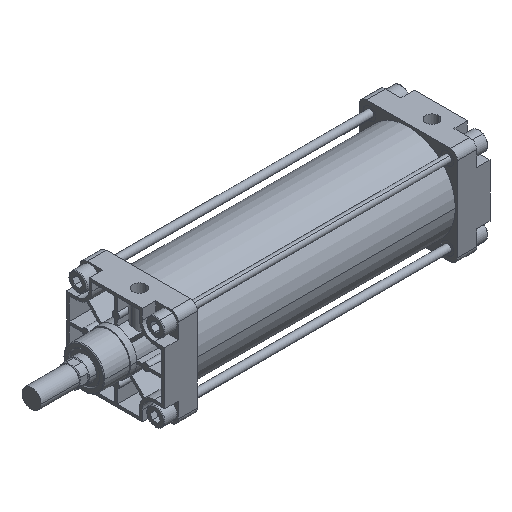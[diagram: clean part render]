
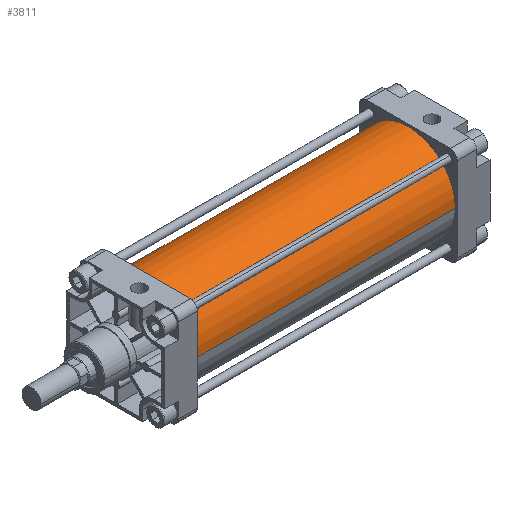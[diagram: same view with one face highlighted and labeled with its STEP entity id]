
A CAD part, isometric view. The second image highlights one B-rep face of the part: STEP entity #3811.
In plain terms, the highlighted cylindrical face has radius 66.5 mm (diameter 133 mm), a partial arc.
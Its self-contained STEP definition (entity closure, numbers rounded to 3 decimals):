
#3206=CARTESIAN_POINT('Vertex',(368.,-66.5,0.)) ;
#3208=CARTESIAN_POINT('Vertex',(368.,66.5,0.)) ;
#3211=CARTESIAN_POINT('Axis2P3D Location',(368.,0.,0.)) ;
#3781=CARTESIAN_POINT('Axis2P3D Location',(184.,0.,0.)) ;
#3786=CARTESIAN_POINT('Line Origine',(184.,66.5,0.)) ;
#3790=CARTESIAN_POINT('Vertex',(0.,66.5,0.)) ;
#3793=CARTESIAN_POINT('Axis2P3D Location',(0.,0.,0.)) ;
#3797=CARTESIAN_POINT('Vertex',(0.,-66.5,0.)) ;
#3800=CARTESIAN_POINT('Line Origine',(184.,-66.5,0.)) ;
#3212=DIRECTION('Axis2P3D Direction',(1.,0.,0.)) ;
#3782=DIRECTION('Axis2P3D Direction',(1.,0.,0.)) ;
#3783=DIRECTION('Axis2P3D XDirection',(0.,1.,0.)) ;
#3787=DIRECTION('Vector Direction',(1.,0.,0.)) ;
#3794=DIRECTION('Axis2P3D Direction',(1.,0.,0.)) ;
#3801=DIRECTION('Vector Direction',(1.,0.,0.)) ;
#3213=AXIS2_PLACEMENT_3D('Circle Axis2P3D',#3211,#3212,$) ;
#3784=AXIS2_PLACEMENT_3D('Cylinder Axis2P3D',#3781,#3782,#3783) ;
#3795=AXIS2_PLACEMENT_3D('Circle Axis2P3D',#3793,#3794,$) ;
#3806=ORIENTED_EDGE('',*,*,#3792,.F.) ;
#3807=ORIENTED_EDGE('',*,*,#3799,.T.) ;
#3808=ORIENTED_EDGE('',*,*,#3804,.T.) ;
#3809=ORIENTED_EDGE('',*,*,#3215,.F.) ;
#3788=VECTOR('Line Direction',#3787,1.) ;
#3802=VECTOR('Line Direction',#3801,1.) ;
#3811=ADVANCED_FACE('PartBody',(#3810),#3785,.T.) ;
#3214=CIRCLE('generated circle',#3213,66.5) ;
#3796=CIRCLE('generated circle',#3795,66.5) ;
#3785=CYLINDRICAL_SURFACE('generated cylinder',#3784,66.5) ;
#3215=EDGE_CURVE('',#3209,#3207,#3214,.T.) ;
#3792=EDGE_CURVE('',#3791,#3209,#3789,.T.) ;
#3799=EDGE_CURVE('',#3791,#3798,#3796,.T.) ;
#3804=EDGE_CURVE('',#3798,#3207,#3803,.T.) ;
#3805=EDGE_LOOP('',(#3806,#3807,#3808,#3809)) ;
#3810=FACE_OUTER_BOUND('',#3805,.T.) ;
#3789=LINE('Line',#3786,#3788) ;
#3803=LINE('Line',#3800,#3802) ;
#3207=VERTEX_POINT('',#3206) ;
#3209=VERTEX_POINT('',#3208) ;
#3791=VERTEX_POINT('',#3790) ;
#3798=VERTEX_POINT('',#3797) ;
